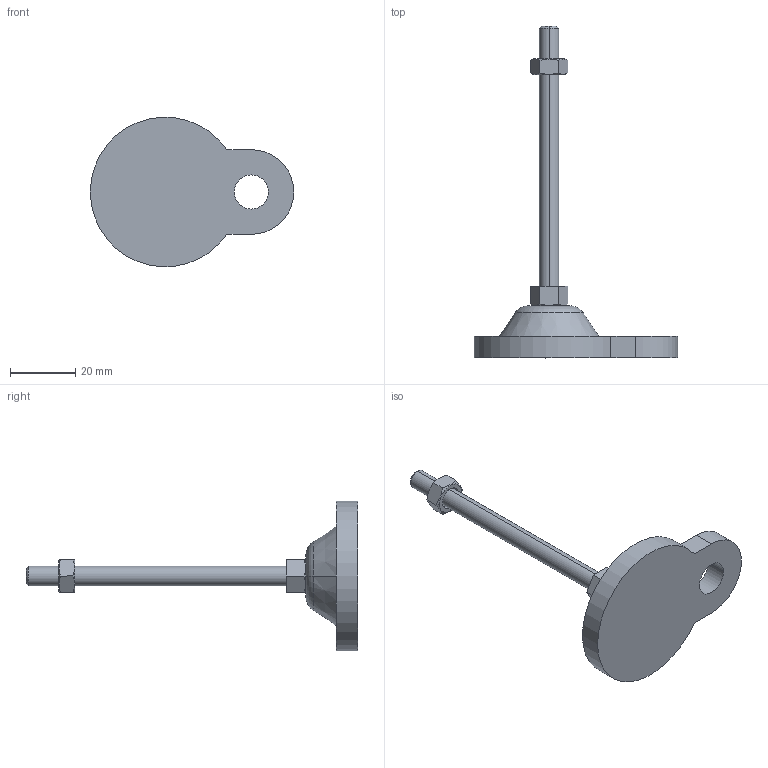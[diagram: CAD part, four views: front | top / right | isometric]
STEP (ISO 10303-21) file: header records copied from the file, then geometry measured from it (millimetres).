
FILE_DESCRIPTION (( 'STEP AP214' ), '1' );
FILE_NAME ('ARB46-M6-80.step', '2021-01-07T07:15:54', ( '' ), ( '' ), 'SwSTEP 2.0', 'SolidWorks 2019', '' );
FILE_SCHEMA (( 'AUTOMOTIVE_DESIGN' ));
Length unit declared in the file: millimetre
Products named in the file (1): ARB46-M6-80
Bounding box: 62.5 x 102 x 45.95 mm (x, y, z)
Volume: 20445.1 mm3; surface area: 7875.7 mm2
Topology: 3 solids, 3 shells, 46 faces, 100 edges, 62 vertices
Faces by surface type: plane 22, cone 14, cylinder 8, torus 2
Entity records: 1434 total; most frequent: CARTESIAN_POINT 371, DIRECTION 212, ORIENTED_EDGE 200, EDGE_CURVE 100, AXIS2_PLACEMENT_3D 83, VERTEX_POINT 62, EDGE_LOOP 52, LINE 46
